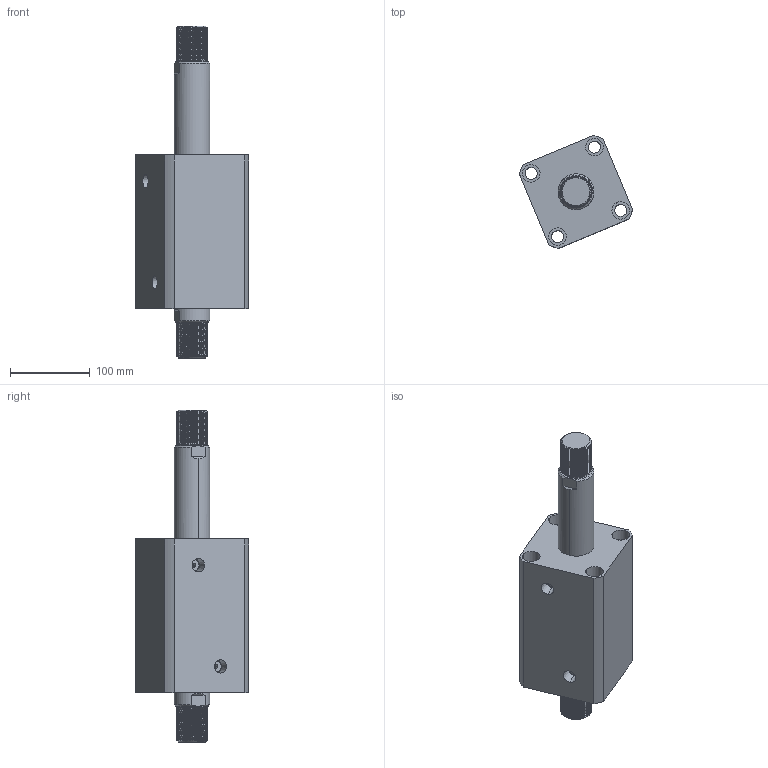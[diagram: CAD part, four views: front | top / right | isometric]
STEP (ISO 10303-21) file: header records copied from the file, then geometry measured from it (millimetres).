
FILE_DESCRIPTION (( 'STEP AP214' ), '1' );
FILE_NAME ('chtb-sw80x100w_asm.STEP', '2018-05-28T02:18:18', ( 'Windows' ), ( 'Microsoft' ), 'SwSTEP 2.0', 'SolidWorks 2015', '' );
FILE_SCHEMA (( 'AUTOMOTIVE_DESIGN' ));
Length unit declared in the file: millimetre
Products named in the file (4): CHTB-SW80X100WHSG; CHTB-SW80X100NBT; CHTB-SD80QG; chtb-sw80x100w_asm
Assembly tree (3 placements, depth 2):
  chtb-sw80x100w_asm
    CHTB-SD80QG
    CHTB-SW80X100NBT
    CHTB-SW80X100WHSG
Bounding box: 142.06 x 142.06 x 417 mm (x, y, z)
Volume: 2266044.7 mm3; surface area: 297776.7 mm2
Topology: 3 solids, 3 shells, 330 faces, 908 edges, 607 vertices
Faces by surface type: cylinder 221, plane 48, cone 25, bspline 18, torus 18
Entity records: 25864 total; most frequent: CARTESIAN_POINT 18238, ORIENTED_EDGE 1808, DIRECTION 1338, EDGE_CURVE 904, VERTEX_POINT 607, AXIS2_PLACEMENT_3D 532, EDGE_LOOP 373, ADVANCED_FACE 330
